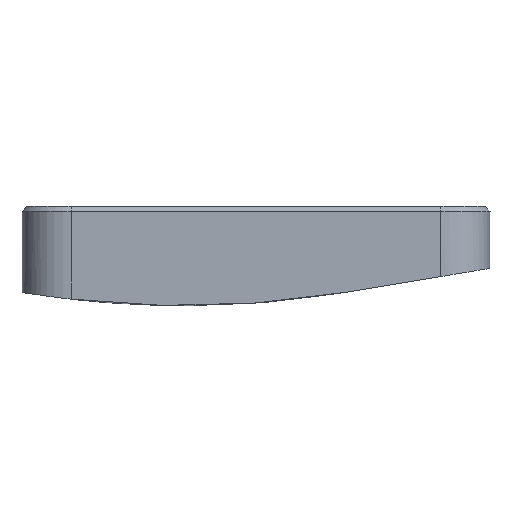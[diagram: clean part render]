
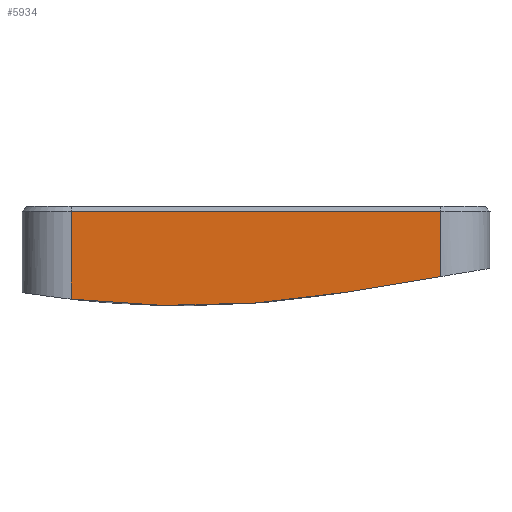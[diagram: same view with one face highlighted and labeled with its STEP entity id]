
A CAD part, front view. The second image highlights one B-rep face of the part: STEP entity #5934.
In plain terms, the highlighted planar face has unit normal (0, -1, 0).
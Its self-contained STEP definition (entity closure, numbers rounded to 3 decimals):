
#5893=VECTOR('Line Direction',#5892,1.) ;
#5917=VECTOR('Line Direction',#5916,1.) ;
#5924=VECTOR('Line Direction',#5923,1.) ;
#5117=DIRECTION('Axis2P3D Direction',(0.,-1.,0.)) ;
#5892=DIRECTION('Vector Direction',(0.,0.,1.)) ;
#5911=DIRECTION('Axis2P3D Direction',(0.,-1.,0.)) ;
#5912=DIRECTION('Axis2P3D XDirection',(-1.,0.,0.)) ;
#5916=DIRECTION('Vector Direction',(0.,0.,-1.)) ;
#5923=DIRECTION('Vector Direction',(-1.,0.,0.)) ;
#3540=CARTESIAN_POINT('Vertex',(900.261,-809.76,184.446)) ;
#3634=CARTESIAN_POINT('Vertex',(938.921,-809.76,190.852)) ;
#3638=CARTESIAN_POINT('Control Point',(900.261,-809.76,184.446)) ;
#3639=CARTESIAN_POINT('Control Point',(938.921,-809.76,190.852)) ;
#5116=CARTESIAN_POINT('Axis2P3D Location',(834.709,-809.761,580.052)) ;
#5120=CARTESIAN_POINT('Vertex',(788.921,-809.761,181.674)) ;
#5891=CARTESIAN_POINT('Line Origine',(938.921,-809.76,179.338)) ;
#5895=CARTESIAN_POINT('Vertex',(938.922,-809.76,217.338)) ;
#5910=CARTESIAN_POINT('Axis2P3D Location',(938.922,-809.76,219.338)) ;
#5915=CARTESIAN_POINT('Line Origine',(788.922,-809.761,199.509)) ;
#5919=CARTESIAN_POINT('Vertex',(788.922,-809.761,217.343)) ;
#5922=CARTESIAN_POINT('Line Origine',(863.922,-809.76,217.341)) ;
#5118=AXIS2_PLACEMENT_3D('Circle Axis2P3D',#5116,#5117,$) ;
#5913=AXIS2_PLACEMENT_3D('Plane Axis2P3D',#5910,#5911,#5912) ;
#3640=EDGE_CURVE('',#3541,#3635,#3637,.T.) ;
#5122=EDGE_CURVE('',#5121,#3541,#5119,.T.) ;
#5897=EDGE_CURVE('',#5896,#3635,#5894,.F.) ;
#5921=EDGE_CURVE('',#5920,#5121,#5918,.T.) ;
#5926=EDGE_CURVE('',#5920,#5896,#5925,.F.) ;
#5914=PLANE('Plane',#5913) ;
#5928=ORIENTED_EDGE('',*,*,#5921,.T.) ;
#5929=ORIENTED_EDGE('',*,*,#5122,.T.) ;
#5930=ORIENTED_EDGE('',*,*,#3640,.T.) ;
#5931=ORIENTED_EDGE('',*,*,#5897,.F.) ;
#5932=ORIENTED_EDGE('',*,*,#5926,.F.) ;
#5894=LINE('Line',#5891,#5893) ;
#5918=LINE('Line',#5915,#5917) ;
#5925=LINE('Line',#5922,#5924) ;
#5934=ADVANCED_FACE('\X2\5EA776C6\X0\-2.0',(#5933),#5914,.T.) ;
#5119=CIRCLE('generated circle',#5118,401.) ;
#3541=VERTEX_POINT('',#3540) ;
#3635=VERTEX_POINT('',#3634) ;
#5121=VERTEX_POINT('',#5120) ;
#5896=VERTEX_POINT('',#5895) ;
#5920=VERTEX_POINT('',#5919) ;
#3637=B_SPLINE_CURVE_WITH_KNOTS('',1,(#3638,#3639),.UNSPECIFIED.,.F.,.U.,(2,2),(-19.562,19.625),.UNSPECIFIED.) ;
#5927=EDGE_LOOP('',(#5928,#5929,#5930,#5931,#5932)) ;
#5933=FACE_OUTER_BOUND('',#5927,.T.) ;
